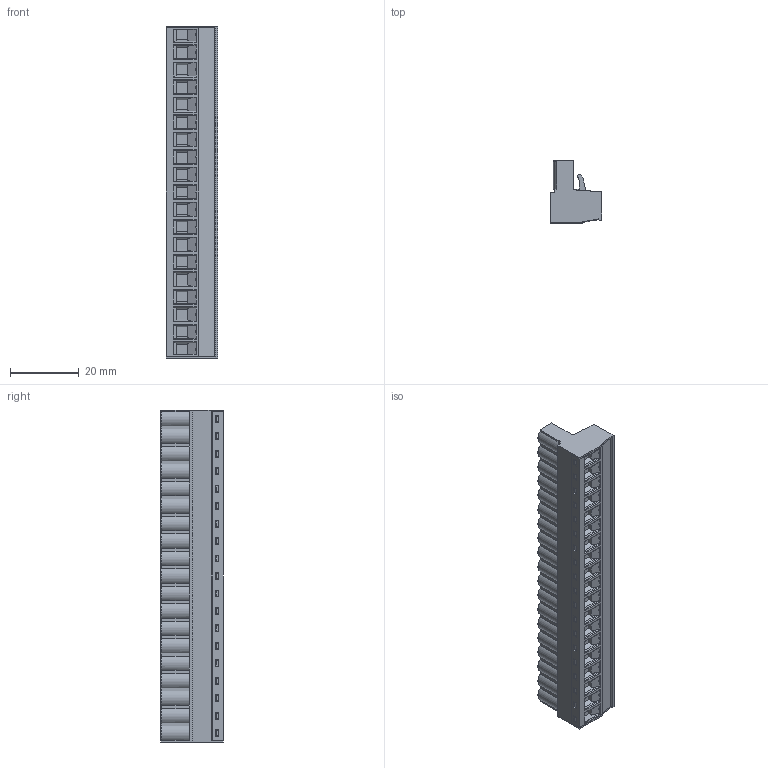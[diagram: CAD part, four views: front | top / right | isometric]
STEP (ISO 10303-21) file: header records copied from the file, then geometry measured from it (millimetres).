
FILE_DESCRIPTION (( 'STEP AP203' ), '1' );
FILE_NAME ('BR8F1-19.STEP', '2020-03-04T02:25:01', ( '' ), ( '' ), 'SwSTEP 2.0', 'SolidWorks 2019', '' );
FILE_SCHEMA (( 'CONFIG_CONTROL_DESIGN' ));
Products named in the file (1): BR8F1-19
Bounding box: 15.05 x 18.1 x 96.52 mm (x, y, z)
Volume: 15315.3 mm3; surface area: 12529.9 mm2
Topology: 1 solids, 1 shells, 2449 faces, 6507 edges, 4174 vertices
Faces by surface type: plane 1497, cylinder 610, cone 152, torus 114, sphere 76
Entity records: 77246 total; most frequent: CARTESIAN_POINT 15655, ORIENTED_EDGE 13014, DIRECTION 12519, EDGE_CURVE 6507, LINE 4707, VECTOR 4707, VERTEX_POINT 4174, AXIS2_PLACEMENT_3D 3906
